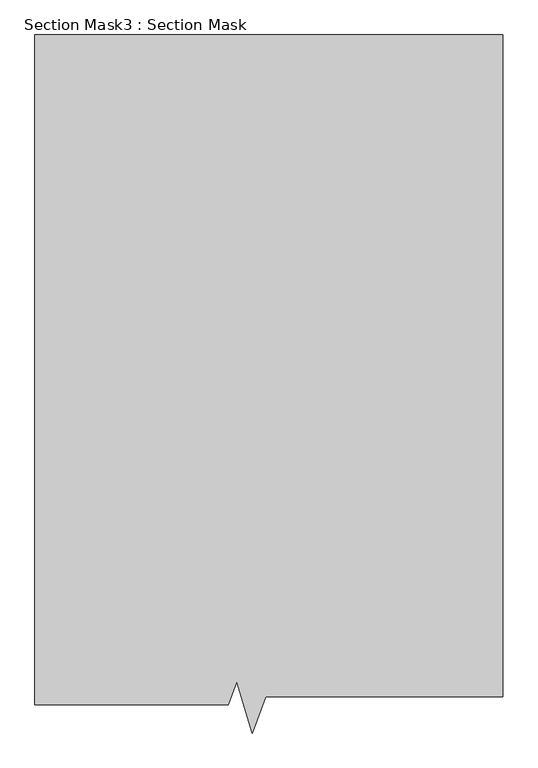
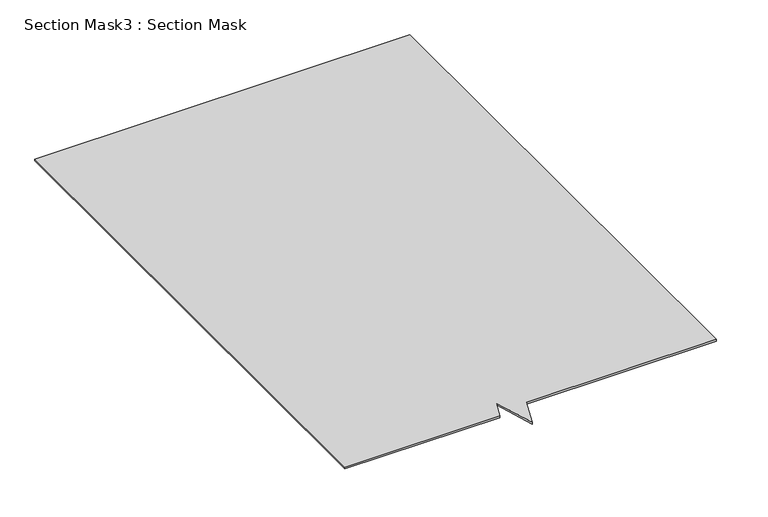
"""IFC4 building model written with IfcOpenShell, lengths in millimetres: proxy geometry, Section Mask3 : Section Mask."""

from ifc_helpers import new_model, si_unit, frame, origin, place, context, project, spatial, polyline, outline, extrude, source, transform, mapped, element, save


def section_mask3_section_mask_6b08dc04(model_context):
    return source(origin(), model_context, "Body", "SweptSolid", [
        extrude(outline(polyline([(8124.664325, 631.273934), (7595.23088, 631.273934), (7595.23088, 2465.4614947), (8876.4836184, 2465.4614947), (8876.4836184, 652.1224056), (8227.2982256, 652.1224056), (8190.6813689, 552.9595639), (8147.6812645, 693.6065681), (8124.664325, 631.273934)])), frame((0.0, 0.0, 45.0273345), z_axis=(0.0, 0.0, 1.0), x_axis=(1.0, 0.0, 0.0)), (0.0, 0.0, 1.0), 6.7336346),
    ])


if __name__ == "__main__":
    model = new_model("IFC4")
    model_context = context("Model", 3, world=origin())
    ifc_project = project(units=[si_unit("LENGTHUNIT", "METRE", prefix="MILLI")], contexts=[model_context])
    site = spatial("IfcSite", under=ifc_project)
    building = spatial("IfcBuilding", under=site)
    placement = place(None, origin())
    section_mask3_section_mask_shape = section_mask3_section_mask_6b08dc04(model_context)
    element("IfcBuildingElementProxy", 1, Name="Section Mask3 : Section Mask", ObjectType="Section Mask3 : Section Mask", at=placement, inside=building, context=model_context, shape_type="MappedRepresentation", body=[
        mapped(section_mask3_section_mask_shape, transform((0.0, 0.0, 0.0), x_axis=(1.0, 0.0, 0.0), y_axis=(0.0, 1.0, 0.0), z_axis=(0.0, 0.0, 1.0))),
    ])
    save(model, "model.ifc")
